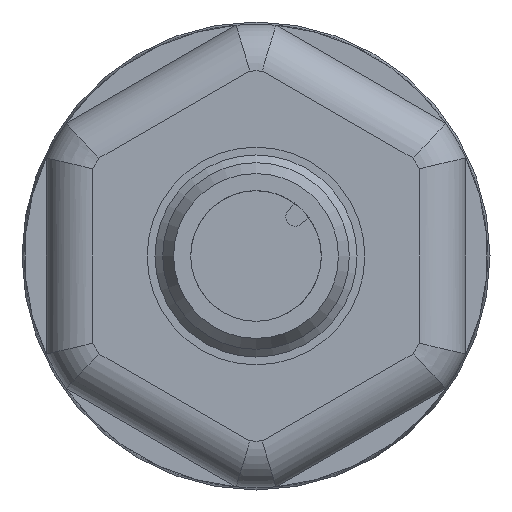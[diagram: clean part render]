
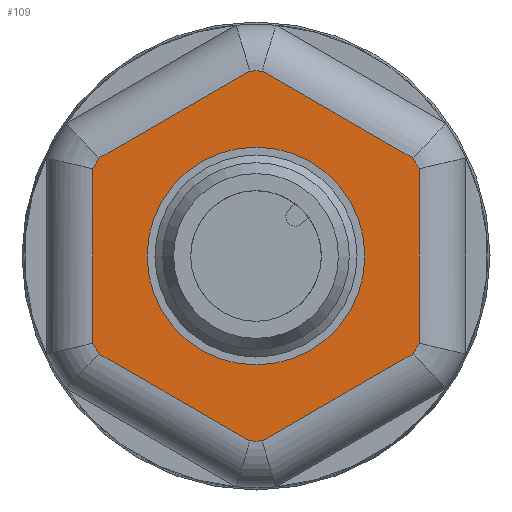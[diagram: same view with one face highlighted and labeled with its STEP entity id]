
A CAD part, left-side view. The second image highlights one B-rep face of the part: STEP entity #109.
In plain terms, the highlighted planar face has unit normal (-1, 0, 0).
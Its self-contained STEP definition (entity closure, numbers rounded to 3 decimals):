
#109 = ADVANCED_FACE( '', ( #233, #234 ), #235, .F. );
#233 = FACE_OUTER_BOUND( '', #438, .T. );
#234 = FACE_BOUND( '', #439, .T. );
#235 = PLANE( '', #440 );
#438 = EDGE_LOOP( '', ( #733, #734, #735, #736, #737, #738, #739, #740, #741, #742, #743, #744 ) );
#439 = EDGE_LOOP( '', ( #745 ) );
#440 = AXIS2_PLACEMENT_3D( '', #746, #747, #748 );
#733 = ORIENTED_EDGE( '', *, *, #1020, .F. );
#734 = ORIENTED_EDGE( '', *, *, #1021, .F. );
#735 = ORIENTED_EDGE( '', *, *, #1022, .F. );
#736 = ORIENTED_EDGE( '', *, *, #960, .F. );
#737 = ORIENTED_EDGE( '', *, *, #1023, .F. );
#738 = ORIENTED_EDGE( '', *, *, #1024, .F. );
#739 = ORIENTED_EDGE( '', *, *, #1025, .F. );
#740 = ORIENTED_EDGE( '', *, *, #962, .F. );
#741 = ORIENTED_EDGE( '', *, *, #1026, .F. );
#742 = ORIENTED_EDGE( '', *, *, #956, .T. );
#743 = ORIENTED_EDGE( '', *, *, #1027, .F. );
#744 = ORIENTED_EDGE( '', *, *, #1028, .T. );
#745 = ORIENTED_EDGE( '', *, *, #1029, .T. );
#746 = CARTESIAN_POINT( '', ( -60., 7., 0. ) );
#747 = DIRECTION( '', ( 1., 0., 0. ) );
#748 = DIRECTION( '', ( 0., 0., -1. ) );
#956 = EDGE_CURVE( '', #1075, #1080, #1082, .T. );
#960 = EDGE_CURVE( '', #1088, #1083, #1090, .T. );
#962 = EDGE_CURVE( '', #1091, #1094, #1095, .T. );
#1020 = EDGE_CURVE( '', #1192, #1193, #1194, .T. );
#1021 = EDGE_CURVE( '', #1195, #1192, #1196, .F. );
#1022 = EDGE_CURVE( '', #1083, #1195, #1197, .T. );
#1023 = EDGE_CURVE( '', #1198, #1088, #1199, .T. );
#1024 = EDGE_CURVE( '', #1200, #1198, #1201, .T. );
#1025 = EDGE_CURVE( '', #1094, #1200, #1202, .T. );
#1026 = EDGE_CURVE( '', #1075, #1091, #1203, .T. );
#1027 = EDGE_CURVE( '', #1204, #1080, #1205, .T. );
#1028 = EDGE_CURVE( '', #1204, #1193, #1206, .T. );
#1029 = EDGE_CURVE( '', #1207, #1207, #1208, .T. );
#1075 = VERTEX_POINT( '', #1285 );
#1080 = VERTEX_POINT( '', #1308 );
#1082 = LINE( '', #1327, #1328 );
#1083 = VERTEX_POINT( '', #1329 );
#1088 = VERTEX_POINT( '', #1352 );
#1090 = LINE( '', #1371, #1372 );
#1091 = VERTEX_POINT( '', #1373 );
#1094 = VERTEX_POINT( '', #1393 );
#1095 = LINE( '', #1394, #1395 );
#1192 = VERTEX_POINT( '', #1531 );
#1193 = VERTEX_POINT( '', #1532 );
#1194 = CIRCLE( '', #1533, 11.9 );
#1195 = VERTEX_POINT( '', #1534 );
#1196 = LINE( '', #1535, #1536 );
#1197 = CIRCLE( '', #1537, 11.9 );
#1198 = VERTEX_POINT( '', #1538 );
#1199 = CIRCLE( '', #1539, 11.9 );
#1200 = VERTEX_POINT( '', #1540 );
#1201 = LINE( '', #1541, #1542 );
#1202 = CIRCLE( '', #1543, 11.9 );
#1203 = CIRCLE( '', #1544, 11.9 );
#1204 = VERTEX_POINT( '', #1545 );
#1205 = CIRCLE( '', #1546, 11.9 );
#1206 = LINE( '', #1547, #1548 );
#1207 = VERTEX_POINT( '', #1549 );
#1208 = CIRCLE( '', #1550, 7. );
#1285 = CARTESIAN_POINT( '', ( -60., -10.1, 6.293 ) );
#1308 = CARTESIAN_POINT( '', ( -60., -0.4, 11.893 ) );
#1327 = CARTESIAN_POINT( '', ( -60., -13.91, 4.093 ) );
#1328 = VECTOR( '', #1712, 1000. );
#1329 = CARTESIAN_POINT( '', ( -60., 10.1, -6.293 ) );
#1352 = CARTESIAN_POINT( '', ( -60., 0.4, -11.893 ) );
#1371 = CARTESIAN_POINT( '', ( -60., -3.41, -14.093 ) );
#1372 = VECTOR( '', #1714, 1000. );
#1373 = CARTESIAN_POINT( '', ( -60., -10.5, 5.6 ) );
#1393 = CARTESIAN_POINT( '', ( -60., -10.5, -5.6 ) );
#1394 = CARTESIAN_POINT( '', ( -60., -10.5, 7.6 ) );
#1395 = VECTOR( '', #1715, 1000. );
#1531 = CARTESIAN_POINT( '', ( -60., 10.5, 5.6 ) );
#1532 = CARTESIAN_POINT( '', ( -60., 10.1, 6.293 ) );
#1533 = AXIS2_PLACEMENT_3D( '', #1837, #1838, #1839 );
#1534 = CARTESIAN_POINT( '', ( -60., 10.5, -5.6 ) );
#1535 = CARTESIAN_POINT( '', ( -60., 10.5, 7.6 ) );
#1536 = VECTOR( '', #1840, 1000. );
#1537 = AXIS2_PLACEMENT_3D( '', #1841, #1842, #1843 );
#1538 = CARTESIAN_POINT( '', ( -60., -0.4, -11.893 ) );
#1539 = AXIS2_PLACEMENT_3D( '', #1844, #1845, #1846 );
#1540 = CARTESIAN_POINT( '', ( -60., -10.1, -6.293 ) );
#1541 = CARTESIAN_POINT( '', ( -60., -13.91, -4.093 ) );
#1542 = VECTOR( '', #1847, 1000. );
#1543 = AXIS2_PLACEMENT_3D( '', #1848, #1849, #1850 );
#1544 = AXIS2_PLACEMENT_3D( '', #1851, #1852, #1853 );
#1545 = CARTESIAN_POINT( '', ( -60., 0.4, 11.893 ) );
#1546 = AXIS2_PLACEMENT_3D( '', #1854, #1855, #1856 );
#1547 = CARTESIAN_POINT( '', ( -60., -3.41, 14.093 ) );
#1548 = VECTOR( '', #1857, 1000. );
#1549 = CARTESIAN_POINT( '', ( -60., 0., -7. ) );
#1550 = AXIS2_PLACEMENT_3D( '', #1858, #1859, #1860 );
#1712 = DIRECTION( '', ( 0., 0.866, 0.5 ) );
#1714 = DIRECTION( '', ( 0., 0.866, 0.5 ) );
#1715 = DIRECTION( '', ( 0., 0., -1. ) );
#1837 = CARTESIAN_POINT( '', ( -60., 0., 0. ) );
#1838 = DIRECTION( '', ( 1., 0., 0. ) );
#1839 = DIRECTION( '', ( 0., 0., -1. ) );
#1840 = DIRECTION( '', ( 0., 0., -1. ) );
#1841 = CARTESIAN_POINT( '', ( -60., 0., 0. ) );
#1842 = DIRECTION( '', ( 1., 0., 0. ) );
#1843 = DIRECTION( '', ( 0., 0., -1. ) );
#1844 = CARTESIAN_POINT( '', ( -60., 0., 0. ) );
#1845 = DIRECTION( '', ( 1., 0., 0. ) );
#1846 = DIRECTION( '', ( 0., 0., -1. ) );
#1847 = DIRECTION( '', ( 0., 0.866, -0.5 ) );
#1848 = CARTESIAN_POINT( '', ( -60., 0., 0. ) );
#1849 = DIRECTION( '', ( 1., 0., 0. ) );
#1850 = DIRECTION( '', ( 0., 0., -1. ) );
#1851 = CARTESIAN_POINT( '', ( -60., 0., 0. ) );
#1852 = DIRECTION( '', ( 1., 0., 0. ) );
#1853 = DIRECTION( '', ( 0., 0., -1. ) );
#1854 = CARTESIAN_POINT( '', ( -60., 0., 0. ) );
#1855 = DIRECTION( '', ( 1., 0., 0. ) );
#1856 = DIRECTION( '', ( 0., 0., -1. ) );
#1857 = DIRECTION( '', ( 0., 0.866, -0.5 ) );
#1858 = CARTESIAN_POINT( '', ( -60., 0., 0. ) );
#1859 = DIRECTION( '', ( 1., 0., 0. ) );
#1860 = DIRECTION( '', ( 0., 0., -1. ) );
